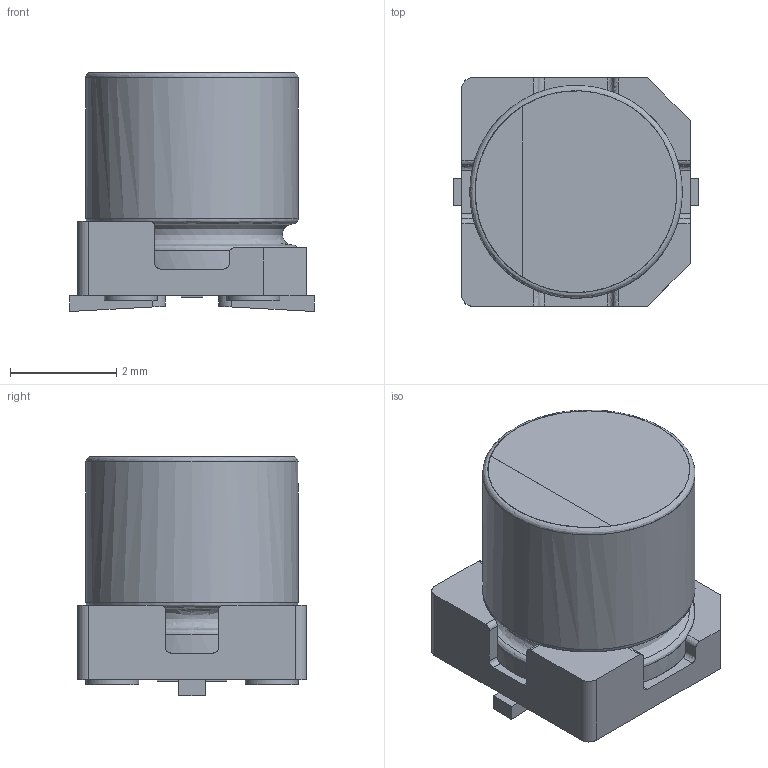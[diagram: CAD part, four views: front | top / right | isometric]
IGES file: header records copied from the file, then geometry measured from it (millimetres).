
Start section: JAMA-IS VERSION  1.0
Bounding box: 4.6 x 4.3 x 4.5 mm (x, y, z)
Surface area: 143 mm2 (no closed solid volume)
Topology: 0 solids, 0 shells, 81 faces, 922 edges, 904 vertices
Faces by surface type: bspline 81
